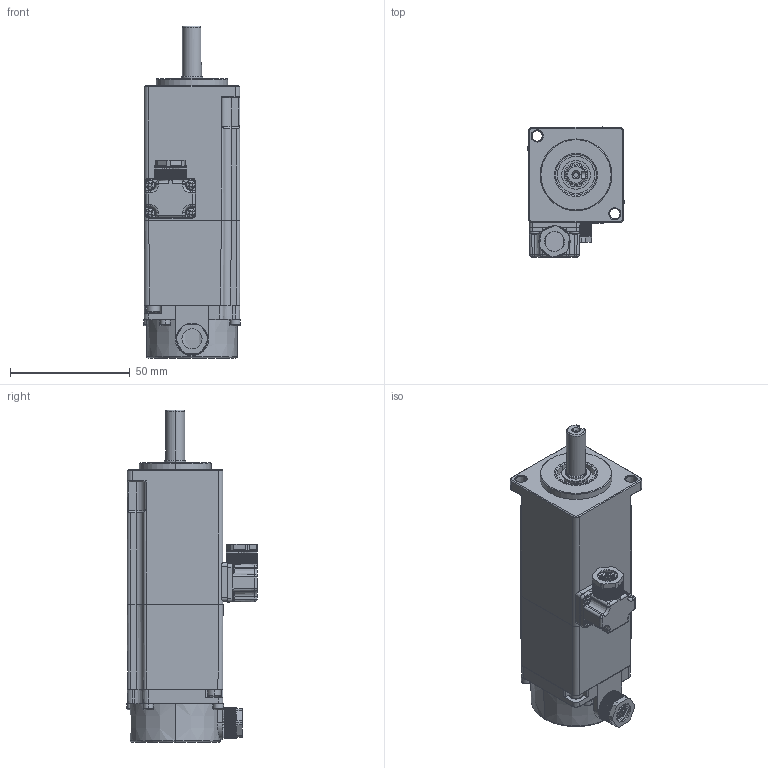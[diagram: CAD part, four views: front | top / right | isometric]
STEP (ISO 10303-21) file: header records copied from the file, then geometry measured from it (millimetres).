
FILE_DESCRIPTION (( 'STEP AP203' ), '1' );
FILE_NAME ('G3系列40ST-100W刹车电机三维图.STEP', '2022-09-17T01:02:25', ( '微软用户' ), ( '微软中国' ), 'SwSTEP 2.0', 'SolidWorks 2016', '' );
FILE_SCHEMA (( 'CONFIG_CONTROL_DESIGN' ));
Products named in the file (1): G3系列40ST-100W刹车电机三维图
Bounding box: 40.44 x 54.52 x 138.9 mm (x, y, z)
Volume: 71571.1 mm3; surface area: 53254.7 mm2
Topology: 18 solids, 18 shells, 2408 faces, 5863 edges, 3538 vertices
Faces by surface type: plane 1440, cylinder 450, cone 394, torus 58, bspline 42, sphere 24
Entity records: 70522 total; most frequent: CARTESIAN_POINT 13658, DIRECTION 12204, ORIENTED_EDGE 11642, EDGE_CURVE 5821, AXIS2_PLACEMENT_3D 4263, VECTOR 3678, LINE 3678, VERTEX_POINT 3538
